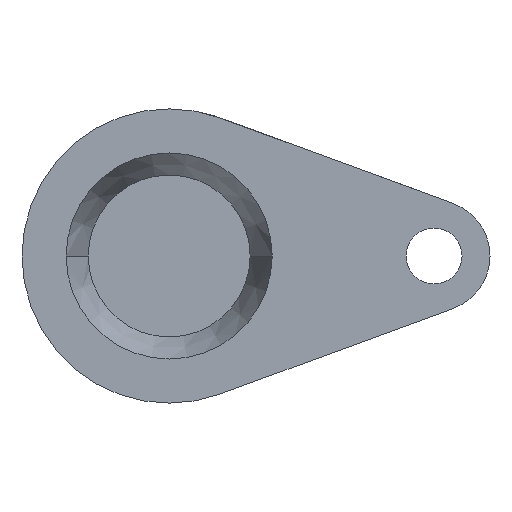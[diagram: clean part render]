
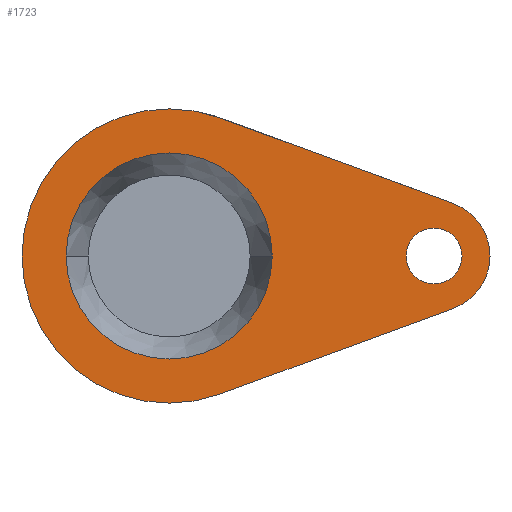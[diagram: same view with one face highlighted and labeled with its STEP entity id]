
A CAD part, front view. The second image highlights one B-rep face of the part: STEP entity #1723.
In plain terms, the highlighted planar face has unit normal (0, -1, 0).
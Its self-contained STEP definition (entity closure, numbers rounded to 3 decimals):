
#43 = DIRECTION ( 'NONE',  ( 0.939, 0., -0.344 ) ) ;
#71 = EDGE_CURVE ( 'NONE', #549, #672, #4322, .T. ) ;
#88 = CIRCLE ( 'NONE', #3458, 35. ) ;
#141 = ORIENTED_EDGE ( 'NONE', *, *, #1706, .T. ) ;
#221 = DIRECTION ( 'NONE',  ( 0., 1., 0. ) ) ;
#281 = EDGE_CURVE ( 'NONE', #721, #3501, #88, .T. ) ;
#316 = ORIENTED_EDGE ( 'NONE', *, *, #3637, .T. ) ;
#340 = VERTEX_POINT ( 'NONE', #1534 ) ;
#392 = EDGE_LOOP ( 'NONE', ( #316, #2767, #2619, #2125, #3842 ) ) ;
#415 = LINE ( 'NONE', #1911, #605 ) ;
#452 = FACE_BOUND ( 'NONE', #3643, .T. ) ;
#485 = DIRECTION ( 'NONE',  ( 0., 1., 0. ) ) ;
#549 = VERTEX_POINT ( 'NONE', #1725 ) ;
#605 = VECTOR ( 'NONE', #43, 1000. ) ;
#672 = VERTEX_POINT ( 'NONE', #815 ) ;
#721 = VERTEX_POINT ( 'NONE', #2321 ) ;
#737 = DIRECTION ( 'NONE',  ( -1., 0., 0. ) ) ;
#741 = FACE_BOUND ( 'NONE', #2048, .T. ) ;
#815 = CARTESIAN_POINT ( 'NONE',  ( 99.5, -33., 0. ) ) ;
#835 = DIRECTION ( 'NONE',  ( 0., -1., 0. ) ) ;
#957 = CARTESIAN_POINT ( 'NONE',  ( 17.222, -33., -46.94 ) ) ;
#968 = CARTESIAN_POINT ( 'NONE',  ( -35., -33., 0. ) ) ;
#1081 = CIRCLE ( 'NONE', #2267, 19. ) ;
#1121 = CIRCLE ( 'NONE', #3709, 19. ) ;
#1142 = DIRECTION ( 'NONE',  ( 0., -1., 0. ) ) ;
#1166 = CARTESIAN_POINT ( 'NONE',  ( 0., -33., 0. ) ) ;
#1238 = DIRECTION ( 'NONE',  ( -1., 0., 0. ) ) ;
#1332 = DIRECTION ( 'NONE',  ( -1., 0., 0. ) ) ;
#1380 = DIRECTION ( 'NONE',  ( 0., 1., 0. ) ) ;
#1395 = LINE ( 'NONE', #2220, #3400 ) ;
#1406 = CARTESIAN_POINT ( 'NONE',  ( 0., -33., 0. ) ) ;
#1436 = CARTESIAN_POINT ( 'NONE',  ( 96.544, -33., 17.837 ) ) ;
#1499 = CARTESIAN_POINT ( 'NONE',  ( 90., -33., 0. ) ) ;
#1534 = CARTESIAN_POINT ( 'NONE',  ( 96.544, -33., -17.837 ) ) ;
#1553 = CARTESIAN_POINT ( 'NONE',  ( 90., -33., 0. ) ) ;
#1575 = DIRECTION ( 'NONE',  ( 0., 1., 0. ) ) ;
#1601 = EDGE_CURVE ( 'NONE', #340, #3993, #1395, .T. ) ;
#1672 = AXIS2_PLACEMENT_3D ( 'NONE', #1499, #1575, #4104 ) ;
#1706 = EDGE_CURVE ( 'NONE', #672, #549, #3325, .T. ) ;
#1723 = ADVANCED_FACE ( 'NONE', ( #741, #452, #4569 ), #1948, .T. ) ;
#1725 = CARTESIAN_POINT ( 'NONE',  ( 80.5, -33., 0. ) ) ;
#1850 = DIRECTION ( 'NONE',  ( -0.939, 0., -0.344 ) ) ;
#1911 = CARTESIAN_POINT ( 'NONE',  ( 17.222, -33., 46.94 ) ) ;
#1929 = CARTESIAN_POINT ( 'NONE',  ( 109., -33., 0. ) ) ;
#1948 = PLANE ( 'NONE',  #4579 ) ;
#2048 = EDGE_LOOP ( 'NONE', ( #3924, #3773 ) ) ;
#2125 = ORIENTED_EDGE ( 'NONE', *, *, #2785, .F. ) ;
#2220 = CARTESIAN_POINT ( 'NONE',  ( 17.222, -33., -46.94 ) ) ;
#2267 = AXIS2_PLACEMENT_3D ( 'NONE', #1553, #2729, #3761 ) ;
#2273 = AXIS2_PLACEMENT_3D ( 'NONE', #4669, #485, #1238 ) ;
#2282 = VERTEX_POINT ( 'NONE', #1436 ) ;
#2321 = CARTESIAN_POINT ( 'NONE',  ( 35., -33., 0. ) ) ;
#2478 = CARTESIAN_POINT ( 'NONE',  ( 90., -33., 0. ) ) ;
#2605 = CARTESIAN_POINT ( 'NONE',  ( 90., -33., 0. ) ) ;
#2619 = ORIENTED_EDGE ( 'NONE', *, *, #3074, .F. ) ;
#2645 = DIRECTION ( 'NONE',  ( 1., 0., 0. ) ) ;
#2660 = CARTESIAN_POINT ( 'NONE',  ( 17.222, -33., 46.94 ) ) ;
#2729 = DIRECTION ( 'NONE',  ( 0., 1., 0. ) ) ;
#2730 = AXIS2_PLACEMENT_3D ( 'NONE', #1166, #1142, #2645 ) ;
#2767 = ORIENTED_EDGE ( 'NONE', *, *, #1601, .F. ) ;
#2785 = EDGE_CURVE ( 'NONE', #2282, #4849, #1121, .T. ) ;
#2804 = ORIENTED_EDGE ( 'NONE', *, *, #71, .T. ) ;
#3074 = EDGE_CURVE ( 'NONE', #4849, #340, #1081, .T. ) ;
#3080 = VERTEX_POINT ( 'NONE', #2660 ) ;
#3280 = CIRCLE ( 'NONE', #2273, 35. ) ;
#3325 = CIRCLE ( 'NONE', #1672, 9.5 ) ;
#3400 = VECTOR ( 'NONE', #1850, 1000. ) ;
#3446 = DIRECTION ( 'NONE',  ( 1., 0., 0. ) ) ;
#3458 = AXIS2_PLACEMENT_3D ( 'NONE', #1406, #1380, #1332 ) ;
#3501 = VERTEX_POINT ( 'NONE', #968 ) ;
#3637 = EDGE_CURVE ( 'NONE', #3080, #3993, #4222, .T. ) ;
#3643 = EDGE_LOOP ( 'NONE', ( #2804, #141 ) ) ;
#3658 = EDGE_CURVE ( 'NONE', #3080, #2282, #415, .T. ) ;
#3709 = AXIS2_PLACEMENT_3D ( 'NONE', #2478, #221, #3974 ) ;
#3761 = DIRECTION ( 'NONE',  ( -1., 0., 0. ) ) ;
#3762 = EDGE_CURVE ( 'NONE', #3501, #721, #3280, .T. ) ;
#3773 = ORIENTED_EDGE ( 'NONE', *, *, #3762, .T. ) ;
#3842 = ORIENTED_EDGE ( 'NONE', *, *, #3658, .F. ) ;
#3924 = ORIENTED_EDGE ( 'NONE', *, *, #281, .T. ) ;
#3974 = DIRECTION ( 'NONE',  ( -1., 0., 0. ) ) ;
#3993 = VERTEX_POINT ( 'NONE', #957 ) ;
#4099 = DIRECTION ( 'NONE',  ( 0., 1., 0. ) ) ;
#4104 = DIRECTION ( 'NONE',  ( -1., 0., 0. ) ) ;
#4168 = AXIS2_PLACEMENT_3D ( 'NONE', #2605, #4099, #737 ) ;
#4207 = CARTESIAN_POINT ( 'NONE',  ( 50., -33., 0. ) ) ;
#4222 = CIRCLE ( 'NONE', #2730, 50. ) ;
#4322 = CIRCLE ( 'NONE', #4168, 9.5 ) ;
#4569 = FACE_OUTER_BOUND ( 'NONE', #392, .T. ) ;
#4579 = AXIS2_PLACEMENT_3D ( 'NONE', #4207, #835, #3446 ) ;
#4669 = CARTESIAN_POINT ( 'NONE',  ( 0., -33., 0. ) ) ;
#4849 = VERTEX_POINT ( 'NONE', #1929 ) ;
